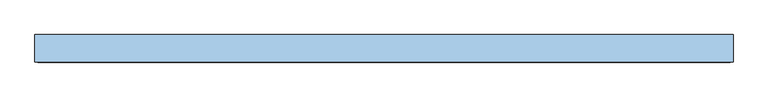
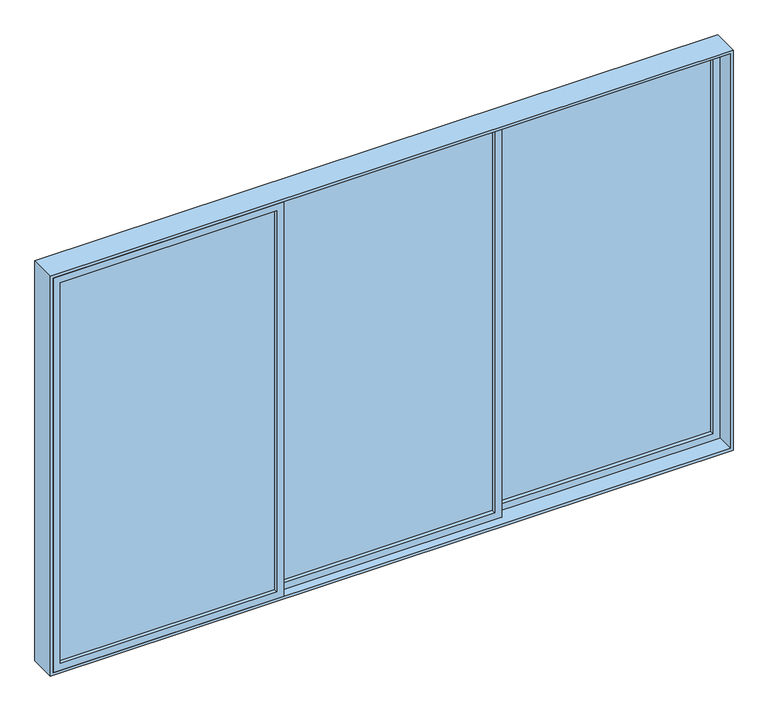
"""IFC4 building model written with IfcOpenShell, lengths in millimetres: window geometry, VENT_ALUM_CORR_3HOJAS_CORRE 1 : V6-VENT_ALUM_CORR_3HOJAS_CORRE 1 - SALA PB1."""

from ifc_helpers import new_model, si_unit, frame, origin, place, context, project, spatial, polyline, outline, extrude, source, transform, mapped, element, save


def window_a96bf420(model_context):
    return source(origin(), model_context, "Body", "SweptSolid", [
        extrude(outline(polyline([(-1843.35, -47.0), (-641.1166667, -47.0), (-641.1166667, -53.0), (-1843.35, -53.0), (-1843.35, -47.0)])), frame((0.0, 0.0, 855.0), z_axis=(0.0, 0.0, 1.0), x_axis=(1.0, 0.0, 0.0)), (0.0, 0.0, 1.0), 2240.0),
        extrude(outline(polyline([(815.0, -1883.35), (815.0, -601.1166667), (3135.0, -601.1166667), (3135.0, -1883.35), (815.0, -1883.35)]), holes=[polyline([(3095.0, -1843.35), (3095.0, -641.1166667), (855.0, -641.1166667), (855.0, -1843.35), (3095.0, -1843.35)])]), frame((0.0, -75.0, 0.0), z_axis=(0.0, 1.0, 0.0), x_axis=(0.0, 0.0, 1.0)), (0.0, 0.0, 1.0), 50.0),
        extrude(outline(polyline([(-601.1166667, 3.0), (601.1166667, 3.0), (601.1166667, -3.0), (-601.1166667, -3.0), (-601.1166667, 3.0)])), frame((0.0, 0.0, 855.0), z_axis=(0.0, 0.0, 1.0), x_axis=(1.0, 0.0, 0.0)), (0.0, 0.0, 1.0), 2240.0),
        extrude(outline(polyline([(815.0, -641.1166667), (815.0, 641.1166667), (3135.0, 641.1166667), (3135.0, -641.1166667), (815.0, -641.1166667)]), holes=[polyline([(3095.0, -601.1166667), (3095.0, 601.1166667), (855.0, 601.1166667), (855.0, -601.1166667), (3095.0, -601.1166667)])]), frame((0.0, -25.0, 0.0), z_axis=(0.0, 1.0, 0.0), x_axis=(0.0, 0.0, 1.0)), (0.0, 0.0, 1.0), 50.0),
        extrude(outline(polyline([(641.1166667, 53.0), (1843.35, 53.0), (1843.35, 47.0), (641.1166667, 47.0), (641.1166667, 53.0)])), frame((0.0, 0.0, 855.0), z_axis=(0.0, 0.0, 1.0), x_axis=(1.0, 0.0, 0.0)), (0.0, 0.0, 1.0), 2240.0),
        extrude(outline(polyline([(815.0, 601.1166667), (815.0, 1883.35), (3135.0, 1883.35), (3135.0, 601.1166667), (815.0, 601.1166667)]), holes=[polyline([(3095.0, 641.1166667), (3095.0, 1843.35), (855.0, 1843.35), (855.0, 641.1166667), (3095.0, 641.1166667)])]), frame((0.0, 25.0, 0.0), z_axis=(0.0, 1.0, 0.0), x_axis=(0.0, 0.0, 1.0)), (0.0, 0.0, 1.0), 50.0),
        extrude(outline(polyline([(800.0, -1898.35), (800.0, 1898.35), (3150.0, 1898.35), (3150.0, -1898.35), (800.0, -1898.35)]), holes=[polyline([(3135.0, -1883.35), (3135.0, 1883.35), (815.0, 1883.35), (815.0, -1883.35), (3135.0, -1883.35)])]), frame((0.0, -75.0, 0.0), z_axis=(0.0, 1.0, 0.0), x_axis=(0.0, 0.0, 1.0)), (0.0, 0.0, 1.0), 150.0),
    ])


if __name__ == "__main__":
    model = new_model("IFC4")
    model_context = context("Model", 3, world=origin())
    ifc_project = project(units=[si_unit("LENGTHUNIT", "METRE", prefix="MILLI")], contexts=[model_context])
    site = spatial("IfcSite", under=ifc_project)
    building = spatial("IfcBuilding", under=site)
    placement = place(None, origin())
    window_shape = window_a96bf420(model_context)
    element("IfcWindow", 1, ObjectType="VENT_ALUM_CORR_3HOJAS_CORRE 1 : V6-VENT_ALUM_CORR_3HOJAS_CORRE 1 - SALA PB1", at=placement, inside=building, context=model_context, shape_type="MappedRepresentation", body=[
        mapped(window_shape, transform((0.0, 0.0, 0.0), x_axis=(1.0, 0.0, 0.0), y_axis=(0.0, 1.0, 0.0), z_axis=(0.0, 0.0, 1.0))),
    ])
    save(model, "model.ifc")
